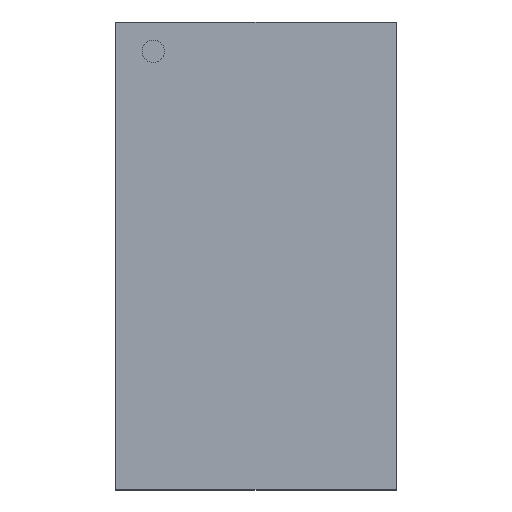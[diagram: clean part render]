
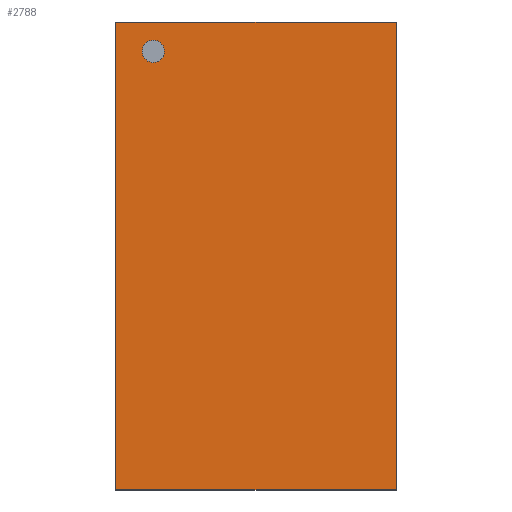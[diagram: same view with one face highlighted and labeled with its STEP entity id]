
A CAD part, top view. The second image highlights one B-rep face of the part: STEP entity #2788.
In plain terms, the highlighted planar face has unit normal (0, 0, 1).
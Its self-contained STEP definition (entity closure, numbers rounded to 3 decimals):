
#145 = VERTEX_POINT ( 'NONE', #17244 ) ;
#346 = VECTOR ( 'NONE', #9807, 1000. ) ;
#394 = FACE_OUTER_BOUND ( 'NONE', #1782, .T. ) ;
#1348 = CARTESIAN_POINT ( 'NONE',  ( -1.5, -2.5, 0. ) ) ;
#1681 = CARTESIAN_POINT ( 'NONE',  ( -17.95, -10.576, 0. ) ) ;
#1737 = DIRECTION ( 'NONE',  ( 0., 0., 1. ) ) ;
#1782 = EDGE_LOOP ( 'NONE', ( #12139, #7202, #12437, #13784 ) ) ;
#1980 = EDGE_CURVE ( 'NONE', #15820, #15364, #8619, .T. ) ;
#2265 = DIRECTION ( 'NONE',  ( 1., 0., 0. ) ) ;
#2788 = ADVANCED_FACE ( 'NONE', ( #394, #9915 ), #7433, .F. ) ;
#3109 = VERTEX_POINT ( 'NONE', #17852 ) ;
#3628 = VECTOR ( 'NONE', #16337, 1000. ) ;
#3706 = VERTEX_POINT ( 'NONE', #16809 ) ;
#4182 = LINE ( 'NONE', #12513, #3628 ) ;
#4568 = DIRECTION ( 'NONE',  ( 1., 0., 0. ) ) ;
#5115 = EDGE_CURVE ( 'NONE', #3706, #145, #4182, .T. ) ;
#5320 = CARTESIAN_POINT ( 'NONE',  ( -1.5, 2.5, 0. ) ) ;
#5428 = ORIENTED_EDGE ( 'NONE', *, *, #17606, .F. ) ;
#5785 = CARTESIAN_POINT ( 'NONE',  ( -1.218, 2.186, 0. ) ) ;
#6079 = CIRCLE ( 'NONE', #9000, 0.12 ) ;
#7202 = ORIENTED_EDGE ( 'NONE', *, *, #5115, .F. ) ;
#7433 = PLANE ( 'NONE',  #11412 ) ;
#7695 = VECTOR ( 'NONE', #8489, 1000. ) ;
#8489 = DIRECTION ( 'NONE',  ( 0., 1., 0. ) ) ;
#8619 = LINE ( 'NONE', #14183, #346 ) ;
#9000 = AXIS2_PLACEMENT_3D ( 'NONE', #14255, #1737, #4568 ) ;
#9033 = CARTESIAN_POINT ( 'NONE',  ( -1.098, 2.186, 0. ) ) ;
#9406 = LINE ( 'NONE', #12521, #15748 ) ;
#9807 = DIRECTION ( 'NONE',  ( 1., 0., 0. ) ) ;
#9915 = FACE_BOUND ( 'NONE', #13221, .T. ) ;
#10000 = DIRECTION ( 'NONE',  ( 0., 0., -1. ) ) ;
#10124 = ORIENTED_EDGE ( 'NONE', *, *, #16441, .F. ) ;
#11412 = AXIS2_PLACEMENT_3D ( 'NONE', #1681, #10000, #16945 ) ;
#11887 = VERTEX_POINT ( 'NONE', #5785 ) ;
#12139 = ORIENTED_EDGE ( 'NONE', *, *, #15043, .F. ) ;
#12437 = ORIENTED_EDGE ( 'NONE', *, *, #17947, .F. ) ;
#12513 = CARTESIAN_POINT ( 'NONE',  ( -1.5, -2.5, 0. ) ) ;
#12521 = CARTESIAN_POINT ( 'NONE',  ( 1.5, -2.5, 0. ) ) ;
#13221 = EDGE_LOOP ( 'NONE', ( #10124, #5428 ) ) ;
#13599 = DIRECTION ( 'NONE',  ( 0., -1., 0. ) ) ;
#13784 = ORIENTED_EDGE ( 'NONE', *, *, #1980, .F. ) ;
#13869 = LINE ( 'NONE', #1348, #7695 ) ;
#14183 = CARTESIAN_POINT ( 'NONE',  ( -1.5, 2.5, 0. ) ) ;
#14255 = CARTESIAN_POINT ( 'NONE',  ( -1.098, 2.186, 0. ) ) ;
#15043 = EDGE_CURVE ( 'NONE', #145, #15820, #13869, .T. ) ;
#15364 = VERTEX_POINT ( 'NONE', #16047 ) ;
#15748 = VECTOR ( 'NONE', #13599, 1000. ) ;
#15820 = VERTEX_POINT ( 'NONE', #5320 ) ;
#16047 = CARTESIAN_POINT ( 'NONE',  ( 1.5, 2.5, 0. ) ) ;
#16326 = AXIS2_PLACEMENT_3D ( 'NONE', #9033, #17712, #2265 ) ;
#16337 = DIRECTION ( 'NONE',  ( -1., 0., 0. ) ) ;
#16441 = EDGE_CURVE ( 'NONE', #3109, #11887, #6079, .T. ) ;
#16809 = CARTESIAN_POINT ( 'NONE',  ( 1.5, -2.5, 0. ) ) ;
#16945 = DIRECTION ( 'NONE',  ( 0., -1., 0. ) ) ;
#17244 = CARTESIAN_POINT ( 'NONE',  ( -1.5, -2.5, 0. ) ) ;
#17494 = CIRCLE ( 'NONE', #16326, 0.12 ) ;
#17606 = EDGE_CURVE ( 'NONE', #11887, #3109, #17494, .T. ) ;
#17712 = DIRECTION ( 'NONE',  ( 0., 0., 1. ) ) ;
#17852 = CARTESIAN_POINT ( 'NONE',  ( -0.978, 2.186, 0. ) ) ;
#17947 = EDGE_CURVE ( 'NONE', #15364, #3706, #9406, .T. ) ;
